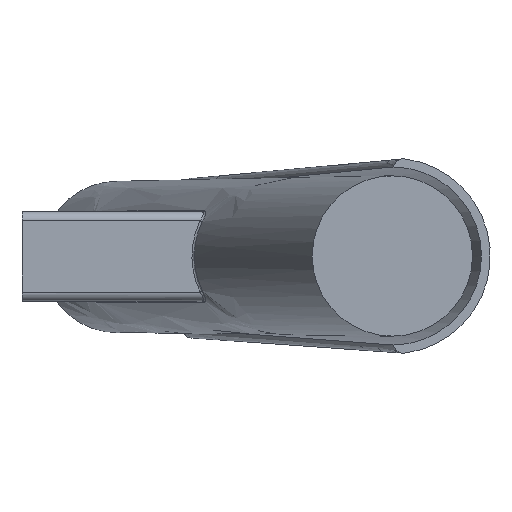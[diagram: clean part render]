
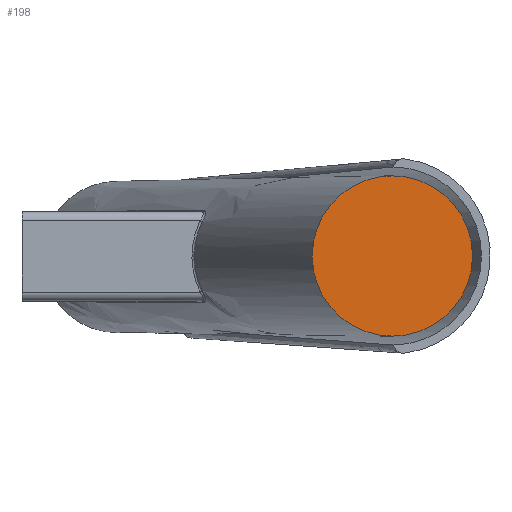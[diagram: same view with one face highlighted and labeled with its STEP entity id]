
A CAD part, top view. The second image highlights one B-rep face of the part: STEP entity #198.
In plain terms, the highlighted planar face has unit normal (0, 0, 1).
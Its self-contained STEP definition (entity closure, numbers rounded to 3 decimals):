
#198=ADVANCED_FACE('',(#652),#654,.T.);
#652=FACE_BOUND('',#653,.T.);
#653=EDGE_LOOP('',(#2016));
#654=PLANE('',#655);
#655=AXIS2_PLACEMENT_3D('',#656,#657,#658);
#656=CARTESIAN_POINT('',(41.58,0.,41.112));
#657=DIRECTION('',(0.,0.,1.));
#658=DIRECTION('',(0.,1.,0.));
#2016=ORIENTED_EDGE('',*,*,#2119,.T.);
#2119=EDGE_CURVE('',#2202,#2202,#2203,.T.);
#2202=VERTEX_POINT('',#2407);
#2203=CIRCLE('',#2408,9.);
#2407=CARTESIAN_POINT('',(41.58,9.,41.112));
#2408=AXIS2_PLACEMENT_3D('',#2409,#2410,#2411);
#2409=CARTESIAN_POINT('',(41.58,0.,41.112));
#2410=DIRECTION('',(0.,0.,1.));
#2411=DIRECTION('',(0.,1.,0.));
